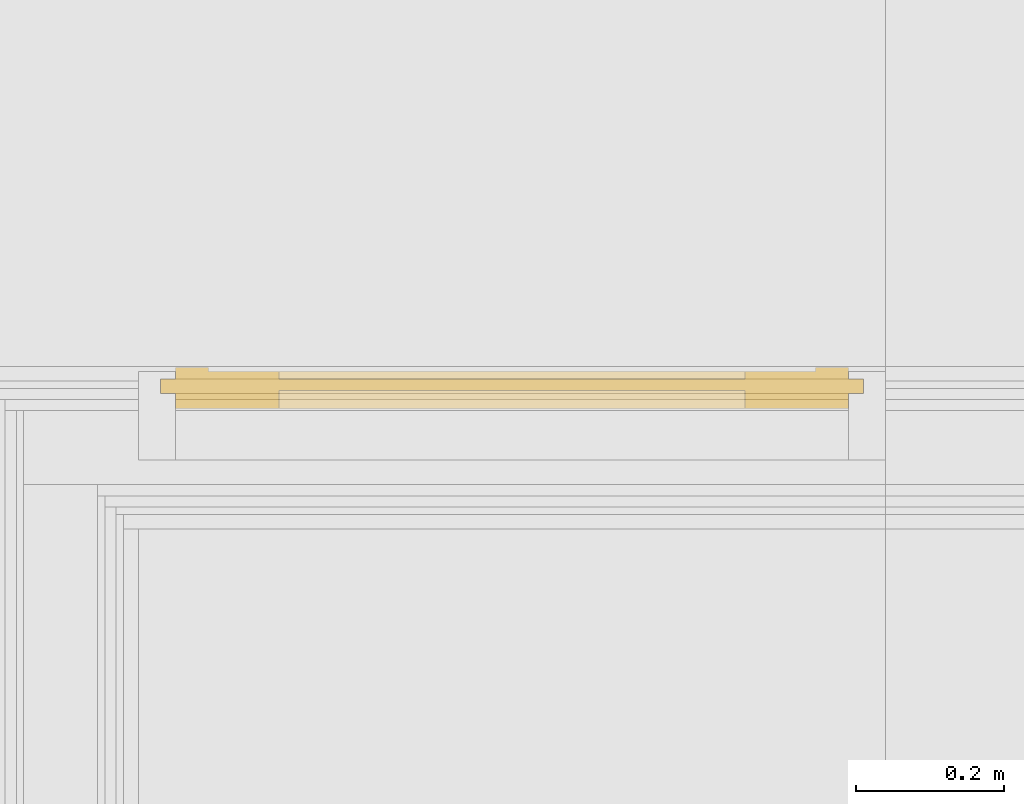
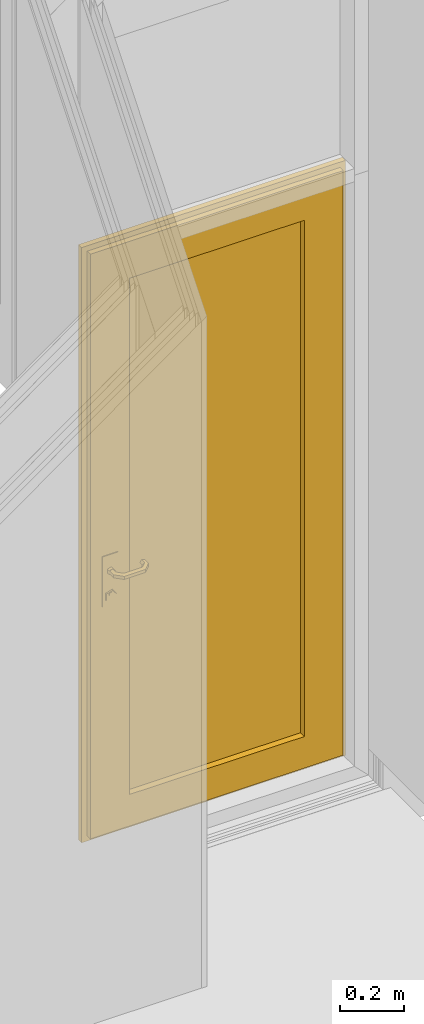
# One storey, part 250 of 260: 1 door, 1 element without a shape of its own.
"""IFC2X3 building model written with IfcOpenShell, lengths in millimetres."""

from ifc_helpers import new_model, entity, si_unit, converted_unit, derived_unit, money_unit, direction, frame, origin_with_axes, place, context, subcontext, project, spatial, open_shell, faceted_brep, surface_model, material, material_list, type_object, element, aggregate, save


model = new_model("IFC2X3")

# Units and contexts
model_context = context("Model", 3, precision=0.01, world=origin_with_axes(), true_north=direction((0.0, 1.0)))
body_context = subcontext(model_context, "Body", "Model", "MODEL_VIEW")
ifc_project = project(units=[si_unit("LENGTHUNIT", "METRE", prefix="MILLI"), si_unit("AREAUNIT", "SQUARE_METRE"), si_unit("VOLUMEUNIT", "CUBIC_METRE"), converted_unit("PLANEANGLEUNIT", "DEGREE", entity("IfcPlaneAngleMeasure", 0.0174532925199), si_unit("PLANEANGLEUNIT", "RADIAN"), dimensions=[0, 0, 0, 0, 0, 0, 0]), money_unit("EUR"), converted_unit("TIMEUNIT", "Year", entity("IfcTimeMeasure", 31556926.0), si_unit("TIMEUNIT", "SECOND"), dimensions=[0, 0, 1, 0, 0, 0, 0]), si_unit("MASSUNIT", "GRAM", prefix="KILO"), si_unit("THERMODYNAMICTEMPERATUREUNIT", "DEGREE_CELSIUS"), si_unit("LUMINOUSINTENSITYUNIT", "LUMEN"), si_unit("ENERGYUNIT", "JOULE", prefix="MEGA"), derived_unit("THERMALCONDUCTANCEUNIT", [(si_unit("POWERUNIT", "WATT"), 1), (si_unit("LENGTHUNIT", "METRE"), -1), (si_unit("THERMODYNAMICTEMPERATUREUNIT", "KELVIN"), -1)]), derived_unit("SPECIFICHEATCAPACITYUNIT", [(si_unit("ENERGYUNIT", "JOULE"), 1), (si_unit("MASSUNIT", "GRAM", prefix="KILO"), -1), (si_unit("THERMODYNAMICTEMPERATUREUNIT", "KELVIN"), -1)]), derived_unit("MASSDENSITYUNIT", [(si_unit("MASSUNIT", "GRAM", prefix="KILO"), 1), (si_unit("VOLUMEUNIT", "CUBIC_METRE"), -1)])], contexts=[model_context])

# Site, building, storey
site_placement = place(None, origin_with_axes())
site = spatial("IfcSite", under=ifc_project, at=site_placement, Name="Kolde pst 67a", CompositionType="ELEMENT")
building_placement = place(site_placement, origin_with_axes())
building = spatial("IfcBuilding", under=site, at=building_placement, Name="Riigigümnaasium", CompositionType="ELEMENT")
storey_placement = place(building_placement, origin_with_axes())
storey = spatial("IfcBuildingStorey", under=building, at=storey_placement, Name="1. korrus", CompositionType="ELEMENT", Elevation=0.0)

# Curtain wall, door
curtain_wall_type = type_object("IfcCurtainWallType", Name="Curtain Wall Type", PredefinedType="NOTDEFINED")
curtain_wall_placement = place(storey_placement, frame((83735.0006955, 24688.0768619, -4.19329628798e-05), z_axis=(0.0, 0.0, 1.0), x_axis=(1.0, 0.0, 0.0)))
curtain_wall = element("IfcCurtainWall", 1, at=curtain_wall_placement, inside=storey, type_object=curtain_wall_type, Name="KLAASSEIN")
ifc_material_1 = material(Name="_METALL - alumiinium")
ifc_material_2 = material(Name="_KLAAS - kirgas")
ifc_material_3 = material(Name="_METALL - roostevaba terasleht, harjatud, 1mm")
ifc_material_list = material_list([ifc_material_1, ifc_material_2, ifc_material_3])
door_style = type_object("IfcDoorStyle", Name="950 x 2265 x 20", ConstructionType="NOTDEFINED", OperationType="SINGLE_SWING_LEFT", ParameterTakesPrecedence=False, Sizeable=False)
door_placement = place(curtain_wall_placement, frame((0.0, 0.0, 1150.00003754), z_axis=(0.0, 0.0, 1.0), x_axis=(-1.0, 0.0, 0.0)))
door = element("IfcDoor", 2, at=door_placement, type_object=door_style, material=ifc_material_list, Name="Siseuks", ObjectType="DOOR", OverallHeight=2225.0, OverallWidth=909.997, context=body_context, shape_type="SurfaceModel", body=[
    faceted_brep([(454.998640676, -20.0, -1099.99999851), (454.998640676, -20.0, 1125.00001639), (454.998640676, -25.0, 1125.00001639), (454.998640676, -25.0, -1099.99999851), (409.998640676, -20.0, -1099.99999851), (409.998640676, -20.0, 1080.00001639), (409.998640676, -25.0, 1080.00001639), (409.998640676, -25.0, -1099.99999851)], [[[0, 1, 2, 3]], [[0, 4, 5, 1]], [[1, 5, 6, 2]], [[3, 2, 6, 7]], [[4, 0, 3, 7]], [[5, 4, 7, 6]]]),
    faceted_brep([(-454.998630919, -20.0, 1125.00001639), (-409.998630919, -20.0, 1080.00001639), (-409.998630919, -25.0, 1080.00001639), (-454.998630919, -25.0, 1125.00001639), (454.998640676, -20.0, 1125.00001639), (409.998640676, -20.0, 1080.00001639), (409.998640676, -25.0, 1080.00001639), (454.998640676, -25.0, 1125.00001639)], [[[0, 1, 2, 3]], [[0, 4, 5, 1]], [[1, 5, 6, 2]], [[3, 2, 6, 7]], [[4, 0, 3, 7]], [[5, 4, 7, 6]]]),
    faceted_brep([(-454.998630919, -20.0, -1099.99999851), (-409.998630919, -20.0, -1099.99999851), (-409.998630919, -25.0, -1099.99999851), (-454.998630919, -25.0, -1099.99999851), (-454.998630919, -20.0, 1125.00001639), (-409.998630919, -20.0, 1080.00001639), (-409.998630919, -25.0, 1080.00001639), (-454.998630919, -25.0, 1125.00001639)], [[[0, 1, 2, 3]], [[0, 4, 5, 1]], [[1, 5, 6, 2]], [[3, 2, 6, 7]], [[4, 0, 3, 7]], [[5, 4, 7, 6]]]),
    faceted_brep([(454.998640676, 30.0, -1099.99999851), (454.998640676, 30.0, 1125.00001639), (454.998640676, -20.0, 1125.00001639), (454.998640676, -20.0, -1099.99999851), (434.998640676, 30.0, -1099.99999851), (434.998640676, 30.0, 1105.00001639), (434.998640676, -20.0, 1105.00001639), (434.998640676, -20.0, -1099.99999851)], [[[0, 1, 2, 3]], [[0, 4, 5, 1]], [[1, 5, 6, 2]], [[3, 2, 6, 7]], [[4, 0, 3, 7]], [[5, 4, 7, 6]]]),
    faceted_brep([(-454.998630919, 30.0, 1125.00001639), (-434.998630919, 30.0, 1105.00001639), (-434.998630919, -20.0, 1105.00001639), (-454.998630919, -20.0, 1125.00001639), (454.998640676, 30.0, 1125.00001639), (434.998640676, 30.0, 1105.00001639), (434.998640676, -20.0, 1105.00001639), (454.998640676, -20.0, 1125.00001639)], [[[0, 1, 2, 3]], [[0, 4, 5, 1]], [[1, 5, 6, 2]], [[3, 2, 6, 7]], [[4, 0, 3, 7]], [[5, 4, 7, 6]]]),
    faceted_brep([(-454.998630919, 30.0, -1099.99999851), (-434.998630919, 30.0, -1099.99999851), (-434.998630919, -20.0, -1099.99999851), (-454.998630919, -20.0, -1099.99999851), (-454.998630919, 30.0, 1125.00001639), (-434.998630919, 30.0, 1105.00001639), (-434.998630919, -20.0, 1105.00001639), (-454.998630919, -20.0, 1125.00001639)], [[[0, 1, 2, 3]], [[0, 4, 5, 1]], [[1, 5, 6, 2]], [[3, 2, 6, 7]], [[4, 0, 3, 7]], [[5, 4, 7, 6]]]),
    faceted_brep([(-474.998638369, 10.0, -1120.00000596), (474.998648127, 10.0, -1120.00000596), (474.998648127, -10.0, -1120.00000596), (-474.998638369, -10.0, -1120.00000596), (-454.998630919, 10.0, -1099.99999851), (454.998640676, 10.0, -1099.99999851), (454.998640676, -10.0, -1099.99999851), (-454.998630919, -10.0, -1099.99999851)], [[[0, 1, 2, 3]], [[0, 4, 5, 1]], [[1, 5, 6, 2]], [[3, 2, 6, 7]], [[4, 0, 3, 7]], [[5, 4, 7, 6]]]),
    faceted_brep([(474.998648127, 10.0, -1120.00000596), (474.998648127, 10.0, 1144.99998957), (474.998648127, -10.0, 1144.99998957), (474.998648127, -10.0, -1120.00000596), (454.998640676, 10.0, -1099.99999851), (454.998640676, 10.0, 1125.00001639), (454.998640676, -10.0, 1125.00001639), (454.998640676, -10.0, -1099.99999851)], [[[0, 1, 2, 3]], [[0, 4, 5, 1]], [[1, 5, 6, 2]], [[3, 2, 6, 7]], [[4, 0, 3, 7]], [[5, 4, 7, 6]]]),
    faceted_brep([(474.998648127, 10.0, 1144.99998957), (-474.998638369, 10.0, 1144.99998957), (-474.998638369, -10.0, 1144.99998957), (474.998648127, -10.0, 1144.99998957), (454.998640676, 10.0, 1125.00001639), (-454.998630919, 10.0, 1125.00001639), (-454.998630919, -10.0, 1125.00001639), (454.998640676, -10.0, 1125.00001639)], [[[0, 1, 2, 3]], [[0, 4, 5, 1]], [[1, 5, 6, 2]], [[3, 2, 6, 7]], [[4, 0, 3, 7]], [[5, 4, 7, 6]]]),
    faceted_brep([(-474.998638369, 10.0, 1144.99998957), (-474.998638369, 10.0, -1120.00000596), (-474.998638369, -10.0, -1120.00000596), (-474.998638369, -10.0, 1144.99998957), (-454.998630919, 10.0, 1125.00001639), (-454.998630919, 10.0, -1099.99999851), (-454.998630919, -10.0, -1099.99999851), (-454.998630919, -10.0, 1125.00001639)], [[[0, 1, 2, 3]], [[0, 4, 5, 1]], [[1, 5, 6, 2]], [[3, 2, 6, 7]], [[4, 0, 3, 7]], [[5, 4, 7, 6]]]),
    faceted_brep([(-314.998630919, -20.0, -979.99999851), (-314.998630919, 30.0, -979.99999851), (-314.998630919, 30.0, 985.000016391), (-314.998630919, -20.0, 985.000016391), (-434.998630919, -20.0, -1099.99999851), (-434.998630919, 30.0, -1099.99999851), (-434.998630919, 30.0, 1105.00001639), (-434.998630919, -20.0, 1105.00001639)], [[[0, 1, 2, 3]], [[4, 5, 1, 0]], [[1, 5, 6, 2]], [[3, 2, 6, 7]], [[0, 3, 7, 4]], [[7, 6, 5, 4]]]),
    faceted_brep([(434.998640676, -20.0, -1099.99999851), (434.998640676, 30.0, -1099.99999851), (434.998640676, 30.0, 1105.00001639), (434.998640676, -20.0, 1105.00001639), (314.998640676, -20.0, -979.99999851), (314.998640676, 30.0, -979.99999851), (314.998640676, 30.0, 985.000016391), (314.998640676, -20.0, 985.000016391)], [[[0, 1, 2, 3]], [[4, 5, 1, 0]], [[1, 5, 6, 2]], [[3, 2, 6, 7]], [[0, 3, 7, 4]], [[7, 6, 5, 4]]]),
    faceted_brep([(434.998640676, -20.0, -1099.99999851), (434.998640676, 30.0, -1099.99999851), (314.998640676, 30.0, -979.99999851), (314.998640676, -20.0, -979.99999851), (-434.998630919, -20.0, -1099.99999851), (-434.998630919, 30.0, -1099.99999851), (-314.998630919, 30.0, -979.99999851), (-314.998630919, -20.0, -979.99999851)], [[[0, 1, 2, 3]], [[4, 5, 1, 0]], [[1, 5, 6, 2]], [[3, 2, 6, 7]], [[0, 3, 7, 4]], [[7, 6, 5, 4]]]),
    faceted_brep([(-434.998630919, -20.0, 1105.00001639), (-434.998630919, 30.0, 1105.00001639), (-314.998630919, 30.0, 985.000016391), (-314.998630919, -20.0, 985.000016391), (434.998640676, -20.0, 1105.00001639), (434.998640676, 30.0, 1105.00001639), (314.998640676, 30.0, 985.000016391), (314.998640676, -20.0, 985.000016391)], [[[0, 1, 2, 3]], [[4, 5, 1, 0]], [[1, 5, 6, 2]], [[3, 2, 6, 7]], [[0, 3, 7, 4]], [[7, 6, 5, 4]]]),
    faceted_brep([(-314.998630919, -10.0, -979.99999851), (-314.998630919, 6.0, -979.99999851), (314.998640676, 6.0, -979.99999851), (314.998640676, -10.0, -979.99999851), (-314.998630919, -10.0, 985.000016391), (-314.998630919, 6.0, 985.000016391), (314.998640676, 6.0, 985.000016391), (314.998640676, -10.0, 985.000016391)], [[[0, 1, 2, 3]], [[4, 5, 1, 0]], [[1, 5, 6, 2]], [[3, 2, 6, 7]], [[0, 3, 7, 4]], [[7, 6, 5, 4]]]),
    faceted_brep([(413.498640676, 30.0, -39.9999985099), (413.498640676, 33.0, -39.9999985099), (356.498640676, 33.0, -39.9999985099), (356.498640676, 30.0, -39.9999985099), (413.498640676, 30.0, -229.99999851), (413.498640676, 33.0, -229.99999851), (356.498640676, 33.0, -229.99999851), (356.498640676, 30.0, -229.99999851)], [[[0, 1, 2, 3]], [[4, 5, 1, 0]], [[1, 5, 6, 2]], [[3, 2, 6, 7]], [[0, 3, 7, 4]], [[7, 6, 5, 4]]]),
    faceted_brep([(381.290436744, 43.0, -111.412676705), (380.981419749, 33.0, -112.363733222), (371.998640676, 33.0, -99.9999985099), (372.998640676, 43.0, -99.9999985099), (394.706844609, 43.0, -107.053421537), (395.515861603, 33.0, -107.64120679), (395.515861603, 33.0, -92.3587902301), (380.981419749, 33.0, -87.636263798), (381.290436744, 43.0, -88.5873203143), (394.706844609, 43.0, -92.9465754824)], [[[0, 1, 2, 3]], [[4, 5, 1, 0]], [[2, 1, 5, 6, 7]], [[3, 2, 7, 8]], [[3, 8, 9, 4, 0]], [[9, 6, 5, 4]], [[8, 7, 6, 9]]]),
    faceted_brep([(378.818300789, 37.0, -214.021128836), (378.2002668, 33.0, -215.923241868), (362.998640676, 33.0, -194.99999851), (364.998640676, 37.0, -194.99999851), (401.178980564, 37.0, -206.755703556), (402.797014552, 33.0, -207.93127406), (402.797014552, 33.0, -182.068722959), (378.2002668, 33.0, -174.076755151), (378.818300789, 37.0, -175.978868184), (401.178980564, 37.0, -183.244293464)], [[[0, 1, 2, 3]], [[4, 5, 1, 0]], [[2, 1, 5, 6, 7]], [[3, 2, 7, 8]], [[3, 8, 9, 4, 0]], [[9, 6, 5, 4]], [[8, 7, 6, 9]]]),
    faceted_brep([(382.835521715, 39.0, -192.657394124), (382.526504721, 37.0, -193.60845064), (376.998640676, 37.0, -185.99999851), (377.998640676, 39.0, -185.99999851), (390.661759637, 39.0, -190.114495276), (391.470776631, 37.0, -190.702280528), (391.470776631, 37.0, -181.297716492), (382.526504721, 37.0, -178.39154638), (382.835521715, 39.0, -179.342602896), (390.661759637, 39.0, -181.885501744)], [[[0, 1, 2, 3]], [[4, 5, 1, 0]], [[2, 1, 5, 6, 7]], [[3, 2, 7, 8]], [[3, 8, 9, 4, 0]], [[9, 6, 5, 4]], [[8, 7, 6, 9]]]),
    surface_model("IfcShellBasedSurfaceModel", [(374.998640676, 43.0, -99.9999985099), (374.998640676, 58.8578643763, -99.9999985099), (381.908470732, 61.7200096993, -109.510563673), (381.908470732, 43.0, -109.510563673), (381.908470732, 43.0, -90.4894333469), (381.908470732, 61.7200096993, -90.4894333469), (360.856505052, 73.0, -99.9999985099), (363.718650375, 79.9098300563, -109.510563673), (393.08881062, 66.3510581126, -105.877851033), (393.08881062, 43.0, -105.877851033), (393.08881062, 43.0, -94.122145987), (393.08881062, 66.3510581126, -94.122145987), (363.718650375, 79.9098300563, -90.4894333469), (299.1407763, 73.0, -99.9999985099), (296.278630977, 79.9098300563, -109.510563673), (368.349698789, 91.0901699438, -105.877851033), (368.349698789, 91.0901699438, -94.122145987), (296.278630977, 79.9098300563, -90.4894333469), (284.998640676, 58.8578643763, -99.9999985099), (278.08881062, 61.7200096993, -109.510563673), (291.647582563, 91.0901699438, -105.877851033), (291.647582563, 91.0901699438, -94.122145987), (278.08881062, 61.7200096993, -90.4894333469), (284.998640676, 43.0, -99.9999985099), (278.08881062, 43.0, -109.510563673), (266.908470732, 66.3510581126, -105.877851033), (266.908470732, 66.3510581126, -94.122145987), (278.08881062, 43.0, -90.4894333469), (266.908470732, 43.0, -94.122145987), (266.908470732, 43.0, -105.877851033)], [open_shell([[[0, 1, 2, 3]], [[4, 5, 1, 0]], [[1, 6, 7, 2]], [[3, 2, 8, 9]], [[10, 11, 5, 4]], [[5, 12, 6, 1]], [[6, 13, 14, 7]], [[2, 7, 15, 8]], [[9, 8, 11, 10]], [[11, 16, 12, 5]], [[12, 17, 13, 6]], [[13, 18, 19, 14]], [[7, 14, 20, 15]], [[8, 15, 16, 11]], [[16, 21, 17, 12]], [[17, 22, 18, 13]], [[18, 23, 24, 19]], [[14, 19, 25, 20]], [[15, 20, 21, 16]], [[21, 26, 22, 17]], [[22, 27, 23, 18]], [[23, 27, 28, 29, 24]], [[19, 24, 29, 25]], [[20, 25, 26, 21]], [[26, 28, 27, 22]], [[25, 29, 28, 26]]])]),
    faceted_brep([(413.498640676, -20.0, -39.9999985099), (356.498640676, -20.0, -39.9999985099), (356.498640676, -23.0, -39.9999985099), (413.498640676, -23.0, -39.9999985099), (413.498640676, -20.0, -229.99999851), (356.498640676, -20.0, -229.99999851), (356.498640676, -23.0, -229.99999851), (413.498640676, -23.0, -229.99999851)], [[[0, 1, 2, 3]], [[0, 4, 5, 1]], [[1, 5, 6, 2]], [[3, 2, 6, 7]], [[4, 0, 3, 7]], [[5, 4, 7, 6]]]),
    faceted_brep([(381.290436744, -33.0, -111.412676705), (372.998640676, -33.0, -99.9999985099), (371.998640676, -23.0, -99.9999985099), (380.981419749, -23.0, -112.363733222), (394.706844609, -33.0, -107.053421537), (394.706844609, -33.0, -92.9465754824), (381.290436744, -33.0, -88.5873203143), (380.981419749, -23.0, -87.636263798), (395.515861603, -23.0, -92.3587902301), (395.515861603, -23.0, -107.64120679)], [[[0, 1, 2, 3]], [[1, 0, 4, 5, 6]], [[1, 6, 7, 2]], [[2, 7, 8, 9, 3]], [[4, 0, 3, 9]], [[5, 4, 9, 8]], [[6, 5, 8, 7]]]),
    faceted_brep([(378.818300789, -27.0, -214.021128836), (364.998640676, -27.0, -194.99999851), (362.998640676, -23.0, -194.99999851), (378.2002668, -23.0, -215.923241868), (401.178980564, -27.0, -206.755703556), (401.178980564, -27.0, -183.244293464), (378.818300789, -27.0, -175.978868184), (378.2002668, -23.0, -174.076755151), (402.797014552, -23.0, -182.068722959), (402.797014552, -23.0, -207.93127406)], [[[0, 1, 2, 3]], [[1, 0, 4, 5, 6]], [[1, 6, 7, 2]], [[2, 7, 8, 9, 3]], [[4, 0, 3, 9]], [[5, 4, 9, 8]], [[6, 5, 8, 7]]]),
    faceted_brep([(382.835521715, -29.0, -192.657394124), (377.998640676, -29.0, -185.99999851), (376.998640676, -27.0, -185.99999851), (382.526504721, -27.0, -193.60845064), (390.661759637, -29.0, -190.114495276), (390.661759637, -29.0, -181.885501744), (382.835521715, -29.0, -179.342602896), (382.526504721, -27.0, -178.39154638), (391.470776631, -27.0, -181.297716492), (391.470776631, -27.0, -190.702280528)], [[[0, 1, 2, 3]], [[1, 0, 4, 5, 6]], [[1, 6, 7, 2]], [[2, 7, 8, 9, 3]], [[4, 0, 3, 9]], [[5, 4, 9, 8]], [[6, 5, 8, 7]]]),
    surface_model("IfcShellBasedSurfaceModel", [(374.998640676, -33.0, -99.9999985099), (381.908470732, -33.0, -109.510563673), (381.908470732, -51.7200096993, -109.510563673), (374.998640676, -48.8578643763, -99.9999985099), (393.08881062, -33.0, -105.877851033), (393.08881062, -56.3510581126, -105.877851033), (363.718650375, -69.9098300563, -109.510563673), (360.856505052, -63.0, -99.9999985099), (381.908470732, -33.0, -90.4894333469), (381.908470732, -51.7200096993, -90.4894333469), (393.08881062, -33.0, -94.122145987), (393.08881062, -56.3510581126, -94.122145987), (368.349698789, -81.0901699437, -105.877851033), (296.278630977, -69.9098300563, -109.510563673), (299.1407763, -63.0, -99.9999985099), (363.718650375, -69.9098300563, -90.4894333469), (368.349698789, -81.0901699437, -94.122145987), (291.647582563, -81.0901699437, -105.877851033), (278.08881062, -51.7200096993, -109.510563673), (284.998640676, -48.8578643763, -99.9999985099), (296.278630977, -69.9098300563, -90.4894333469), (291.647582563, -81.0901699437, -94.122145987), (266.908470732, -56.3510581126, -105.877851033), (278.08881062, -33.0, -109.510563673), (284.998640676, -33.0, -99.9999985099), (278.08881062, -51.7200096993, -90.4894333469), (266.908470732, -56.3510581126, -94.122145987), (266.908470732, -33.0, -105.877851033), (266.908470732, -33.0, -94.122145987), (278.08881062, -33.0, -90.4894333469)], [open_shell([[[0, 1, 2, 3]], [[1, 4, 5, 2]], [[3, 2, 6, 7]], [[8, 0, 3, 9]], [[4, 10, 11, 5]], [[2, 5, 12, 6]], [[7, 6, 13, 14]], [[9, 3, 7, 15]], [[10, 8, 9, 11]], [[5, 11, 16, 12]], [[6, 12, 17, 13]], [[14, 13, 18, 19]], [[15, 7, 14, 20]], [[11, 9, 15, 16]], [[12, 16, 21, 17]], [[13, 17, 22, 18]], [[19, 18, 23, 24]], [[20, 14, 19, 25]], [[16, 15, 20, 21]], [[17, 21, 26, 22]], [[18, 22, 27, 23]], [[24, 23, 27, 28, 29]], [[25, 19, 24, 29]], [[21, 20, 25, 26]], [[22, 26, 28, 27]], [[26, 25, 29, 28]]])]),
])
aggregate(curtain_wall, [door])

save(model, "model.ifc")
